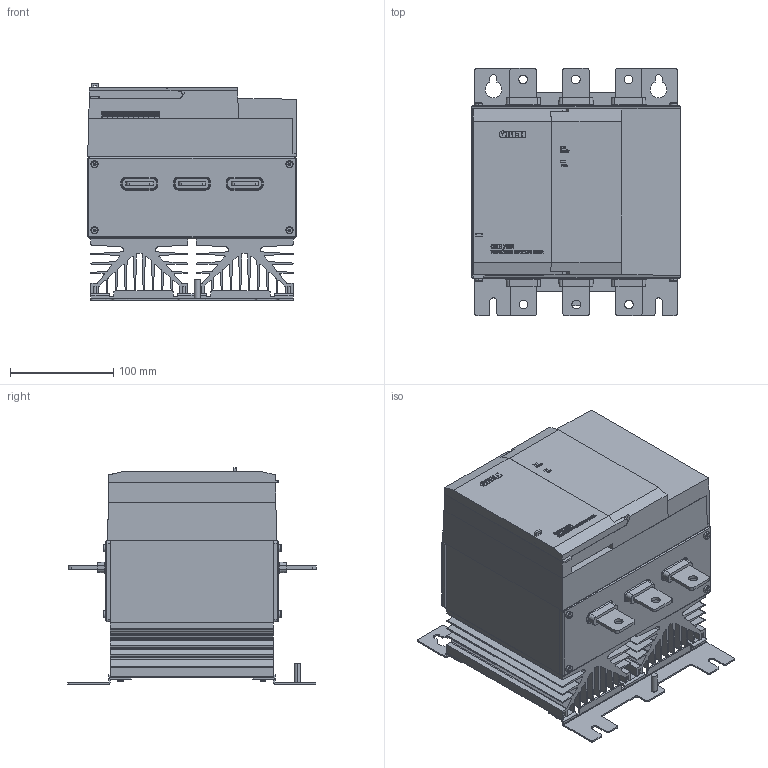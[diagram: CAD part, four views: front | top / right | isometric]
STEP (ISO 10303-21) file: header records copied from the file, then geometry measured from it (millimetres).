
FILE_DESCRIPTION (( 'STEP AP214' ), '1' );
FILE_NAME ('3D ìîäåëü ÓÏÏ2-75Ê-Â.STEP', '2017-09-06T07:12:02', ( '' ), ( '' ), 'SwSTEP 2.0', 'SolidWorks 2014', '' );
FILE_SCHEMA (( 'AUTOMOTIVE_DESIGN' ));
Length unit declared in the file: millimetre
Products named in the file (12): Ïàíåëü âíóòðåííÿÿ; Ðàäèàòîð ÓÏÏ2-75Ê-Â; Êëåììà_14õ9,8õ5ìì; socket head thin cap screw_din_DIN 7984 - M3 x 10 --- 8.5N; Êðåïåæ ÓÏÏ2-75Ê-Â_íèç; Êîðïóñ ÓÏÏ2-75Ê-Â; Êðåïåæ ÓÏÏ2-75Ê-Â_âåðõ; 3D ìîäåëü ÓÏÏ2-75Ê-Â; Êðûøêà ÓÏÏ2-55Ê-Â; 冓踖樦 6pin; Âûâîäû ÓÏÏ2-75Ê-Â; socket head thin cap screw_din_DIN 7984 - M4 x 10 --- 7.9N
Assembly tree (37 placements, depth 2):
  3D ìîäåëü ÓÏÏ2-75Ê-Â
    Êîðïóñ ÓÏÏ2-75Ê-Â
    Ðàäèàòîð ÓÏÏ2-75Ê-Â  x2
    socket head thin cap screw_din_DIN 7984 - M3 x 10 --- 8.5N  x8
    Ïàíåëü âíóòðåííÿÿ
    Êëåììà_14õ9,8õ5ìì  x11
    冓踖樦 6pin
    Êðûøêà ÓÏÏ2-55Ê-Â
    Âûâîäû ÓÏÏ2-75Ê-Â  x2
    Êðåïåæ ÓÏÏ2-75Ê-Â_âåðõ
    Êðåïåæ ÓÏÏ2-75Ê-Â_íèç
    socket head thin cap screw_din_DIN 7984 - M4 x 10 --- 7.9N  x8
Bounding box: 202 x 240.25 x 209.8 mm (x, y, z)
Volume: 5353453.8 mm3; surface area: 832619.9 mm2
Topology: 90 solids, 90 shells, 5362 faces, 14228 edges, 9332 vertices
Faces by surface type: plane 2609, bspline 1976, cylinder 593, torus 96, cone 88
Entity records: 190947 total; most frequent: CARTESIAN_POINT 58683, ORIENTED_EDGE 23072, DIRECTION 12721, EDGE_CURVE 11536, VERTEX_POINT 7638, VECTOR 6955, LINE 6955, EDGE_LOOP 4530
